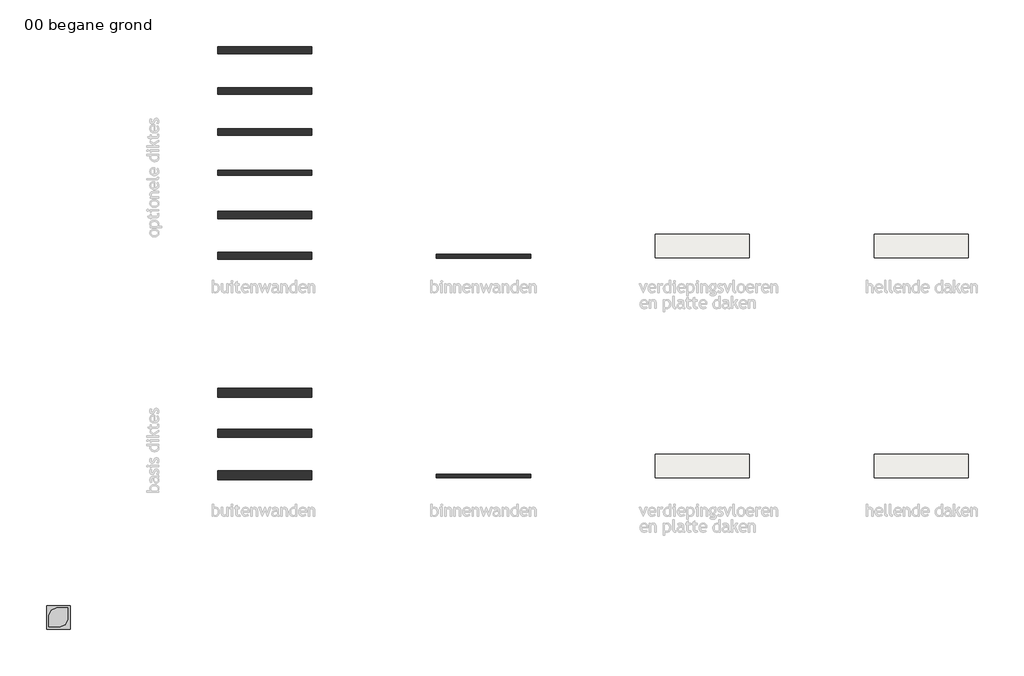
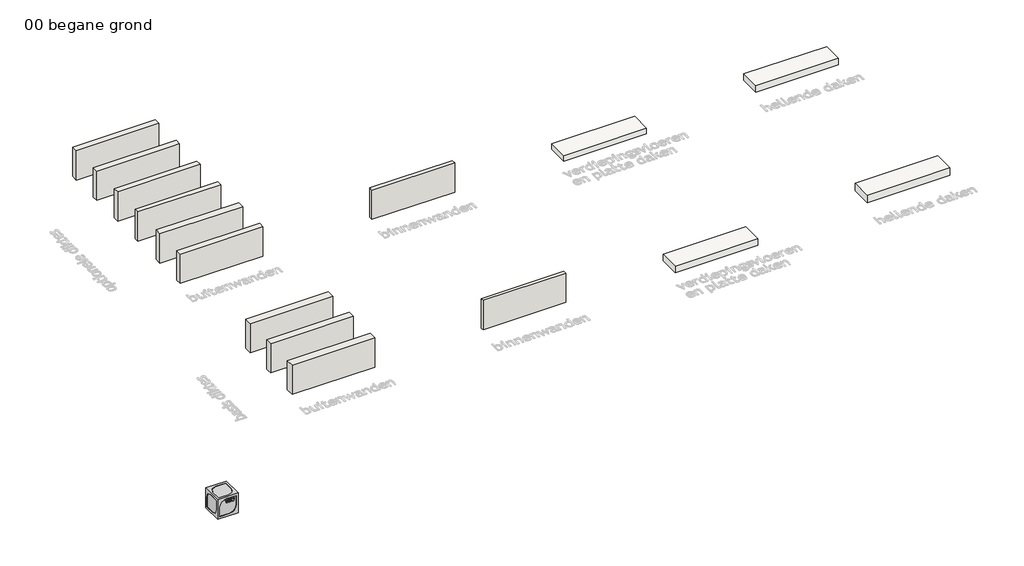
# One storey, part 1 of 7: 11 walls, 2 roofs, 2 slabs, 1 proxy.
"""IFC4 building model written with IfcOpenShell, lengths in millimetres."""

from ifc_helpers import new_model, si_unit, frame, origin, origin_with_axes, place, context, project, spatial, polyline, outline, extrude, transform, mapped, element, save
from components import generic_models_3514b772

model = new_model("IFC4")

# Units and contexts
model_context = context("Model", 3, world=origin())
ifc_project = project(units=[si_unit("LENGTHUNIT", "METRE", prefix="MILLI")], contexts=[model_context])

# Site, building, storey
site = spatial("IfcSite", under=ifc_project)
building = spatial("IfcBuilding", under=site)
storey = spatial("IfcBuildingStorey", under=building, Name="00 begane grond", Elevation=0.0)

# Proxy
placement = place(None, origin())
generic_models_shape = generic_models_3514b772(model_context)
element("IfcBuildingElementProxy", 1, Name="NLRS_00_GM_UN_nulpunt-blok_gen_vay : nulpuntblok_gen_VAY_1000x1000", ObjectType="NLRS_00_GM_UN_nulpunt-blok_gen_vay : nulpuntblok_gen_VAY_1000x1000", at=placement, inside=storey, context=model_context, shape_type="MappedRepresentation", body=[
    mapped(generic_models_shape, transform((-4000.0, -4000.2252771, 0.0), x_axis=(1.0, 0.0, 0.0), y_axis=(0.0, 1.0, 0.0), z_axis=(0.0, 0.0, 1.0))),
])

# Roofs
element("IfcRoof", 2, ObjectType="NLRS_27_RO_hellend dak 300_gen_VAY", at=placement, inside=storey, context=model_context, shape_type="SweptSolid", body=[
    extrude(outline(polyline([(34171.5727747, 1439.8150693), (30171.5727747, 1439.8150693), (30171.5727747, 2439.8150693), (34171.5727747, 2439.8150693), (34171.5727747, 1439.8150693)])), origin_with_axes(), (0.0, 0.0, 1.0), 381.0),
])
element("IfcRoof", 3, ObjectType="NLRS_27_RO_hellend dak 240_gen_VAY", at=placement, inside=storey, context=model_context, shape_type="SweptSolid", body=[
    extrude(outline(polyline([(34171.5727747, 10774.8150693), (30171.5727747, 10774.8150693), (30171.5727747, 11774.8150693), (34171.5727747, 11774.8150693), (34171.5727747, 10774.8150693)])), origin_with_axes(), (0.0, 0.0, 1.0), 321.0),
])

# Slabs
element("IfcSlab", 4, ObjectType="NLRS_23_FL_verdiepingsvloer 300_gen_VAY", at=placement, inside=storey, context=model_context, shape_type="SweptSolid", body=[
    extrude(outline(polyline([(24871.5727747, 1439.8150693), (20871.5727747, 1439.8150693), (20871.5727747, 2439.8150693), (24871.5727747, 2439.8150693), (24871.5727747, 1439.8150693)])), frame((0.0, 0.0, -336.0), z_axis=(0.0, 0.0, 1.0), x_axis=(1.0, 0.0, 0.0)), (0.0, 0.0, 1.0), 336.0),
])
element("IfcSlab", 5, ObjectType="NLRS_23_FL_verdiepingsvloer 240_gen_VAY", at=placement, inside=storey, context=model_context, shape_type="SweptSolid", body=[
    extrude(outline(polyline([(24871.5727747, 10774.8150693), (20871.5727747, 10774.8150693), (20871.5727747, 11774.8150693), (24871.5727747, 11774.8150693), (24871.5727747, 10774.8150693)])), frame((0.0, 0.0, -276.0), z_axis=(0.0, 0.0, 1.0), x_axis=(1.0, 0.0, 0.0)), (0.0, 0.0, 1.0), 276.0),
])

# Walls
element("IfcWall", 6, ObjectType="NLRS_22_WA_buitenwand 300 gevelbekleding_gen_VAY", at=placement, inside=storey, context=model_context, shape_type="SweptSolid", body=[
    extrude(outline(polyline([(6271.5727747, 1353.8150693), (2271.5727747, 1353.8150693), (2271.5727747, 1739.8150693), (6271.5727747, 1739.8150693), (6271.5727747, 1353.8150693)])), origin_with_axes(), (0.0, 0.0, 1.0), 1500.0),
])
element("IfcWall", 7, ObjectType="NLRS_22_WA_buitenwand 300 metselwerk_gen_VAY", at=placement, inside=storey, context=model_context, shape_type="SweptSolid", body=[
    extrude(outline(polyline([(6271.5727747, 3159.8150693), (2271.5727747, 3159.8150693), (2271.5727747, 3489.8150693), (6271.5727747, 3489.8150693), (6271.5727747, 3159.8150693)])), origin_with_axes(), (0.0, 0.0, 1.0), 1500.0),
])
element("IfcWall", 8, ObjectType="NLRS_22_WA_buitenwand 300 stucwerk_gen_VAY", at=placement, inside=storey, context=model_context, shape_type="SweptSolid", body=[
    extrude(outline(polyline([(6271.5727747, 4864.8150693), (2271.5727747, 4864.8150693), (2271.5727747, 5239.8150693), (6271.5727747, 5239.8150693), (6271.5727747, 4864.8150693)])), origin_with_axes(), (0.0, 0.0, 1.0), 1500.0),
])
element("IfcWall", 9, ObjectType="NLRS_22_WA_binnenwand 120_gen_VAY", at=placement, inside=storey, context=model_context, shape_type="SweptSolid", body=[
    extrude(outline(polyline([(15571.5727747, 1439.8150693), (11571.5727747, 1439.8150693), (11571.5727747, 1586.8150693), (15571.5727747, 1586.8150693), (15571.5727747, 1439.8150693)])), origin_with_axes(), (0.0, 0.0, 1.0), 1500.0),
])
element("IfcWall", 10, ObjectType="NLRS_22_WA_buitenwand 200 gevelbekleding_gen_VAY", at=placement, inside=storey, context=model_context, shape_type="SweptSolid", body=[
    extrude(outline(polyline([(6271.5727747, 10723.8150693), (2271.5727747, 10723.8150693), (2271.5727747, 11009.8150693), (6271.5727747, 11009.8150693), (6271.5727747, 10723.8150693)])), origin_with_axes(), (0.0, 0.0, 1.0), 1500.0),
])
element("IfcWall", 11, ObjectType="NLRS_22_WA_buitenwand 240 gevelbekleding_gen_VAY", at=placement, inside=storey, context=model_context, shape_type="SweptSolid", body=[
    extrude(outline(polyline([(6271.5727747, 12433.8150693), (2271.5727747, 12433.8150693), (2271.5727747, 12759.8150693), (6271.5727747, 12759.8150693), (6271.5727747, 12433.8150693)])), origin_with_axes(), (0.0, 0.0, 1.0), 1500.0),
])
element("IfcWall", 12, ObjectType="NLRS_22_WA_buitenwand 200 metselwerk_gen_VAY", at=placement, inside=storey, context=model_context, shape_type="SweptSolid", body=[
    extrude(outline(polyline([(6271.5727747, 14279.8150693), (2271.5727747, 14279.8150693), (2271.5727747, 14509.8150693), (6271.5727747, 14509.8150693), (6271.5727747, 14279.8150693)])), origin_with_axes(), (0.0, 0.0, 1.0), 1500.0),
])
element("IfcWall", 13, ObjectType="NLRS_22_WA_binnenwand 150_gen_VAY", at=placement, inside=storey, context=model_context, shape_type="SweptSolid", body=[
    extrude(outline(polyline([(15571.5727747, 10759.8150693), (11571.5727747, 10759.8150693), (11571.5727747, 10936.8150693), (15571.5727747, 10936.8150693), (15571.5727747, 10759.8150693)])), origin_with_axes(), (0.0, 0.0, 1.0), 1500.0),
])
element("IfcWall", 14, ObjectType="NLRS_22_WA_buitenwand 240 metselwerk_gen_VAY", at=placement, inside=storey, context=model_context, shape_type="SweptSolid", body=[
    extrude(outline(polyline([(6271.5727747, 15989.8150693), (2271.5727747, 15989.8150693), (2271.5727747, 16259.8150693), (6271.5727747, 16259.8150693), (6271.5727747, 15989.8150693)])), origin_with_axes(), (0.0, 0.0, 1.0), 1500.0),
])
element("IfcWall", 15, ObjectType="NLRS_22_WA_buitenwand 200 stucwerk_gen_VAY", at=placement, inside=storey, context=model_context, shape_type="SweptSolid", body=[
    extrude(outline(polyline([(6271.5727747, 17734.8150693), (2271.5727747, 17734.8150693), (2271.5727747, 18009.8150693), (6271.5727747, 18009.8150693), (6271.5727747, 17734.8150693)])), origin_with_axes(), (0.0, 0.0, 1.0), 1500.0),
])
element("IfcWall", 16, ObjectType="NLRS_22_WA_buitenwand 240 stucwerk_gen_VAY", at=placement, inside=storey, context=model_context, shape_type="SweptSolid", body=[
    extrude(outline(polyline([(6271.5727747, 19444.8150693), (2271.5727747, 19444.8150693), (2271.5727747, 19759.8150693), (6271.5727747, 19759.8150693), (6271.5727747, 19444.8150693)])), origin_with_axes(), (0.0, 0.0, 1.0), 1500.0),
])

save(model, "model.ifc")
